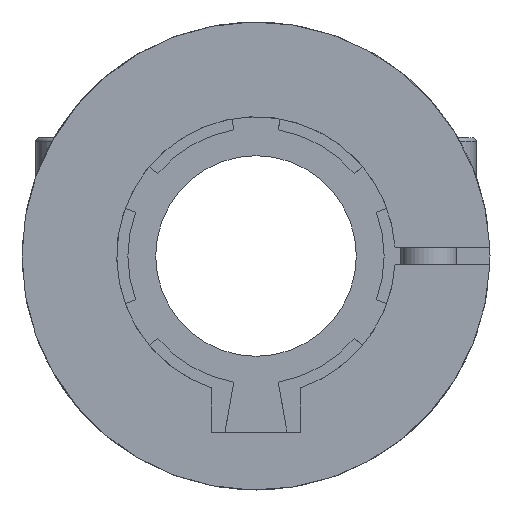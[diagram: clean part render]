
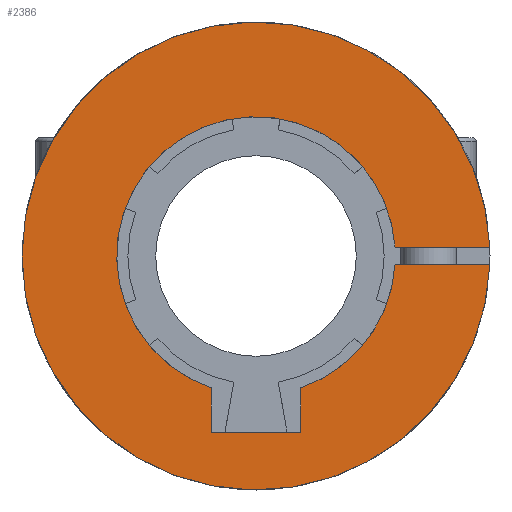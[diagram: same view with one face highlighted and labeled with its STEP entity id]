
A CAD part, left-side view. The second image highlights one B-rep face of the part: STEP entity #2386.
In plain terms, the highlighted planar face has unit normal (-1, 0, 0).
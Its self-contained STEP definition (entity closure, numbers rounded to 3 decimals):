
#56=PLANE('',#2619);
#164=FACE_OUTER_BOUND('',#296,.T.);
#296=EDGE_LOOP('',(#1694,#1695,#1696,#1697,#1698,#1699,#1700,#1701));
#452=LINE('',#3772,#681);
#456=LINE('',#3781,#685);
#459=LINE('',#3785,#688);
#462=LINE('',#3793,#691);
#464=LINE('',#3800,#693);
#681=VECTOR('',#2926,1.);
#685=VECTOR('',#2932,1.);
#688=VECTOR('',#2937,1.);
#691=VECTOR('',#2946,1000.);
#693=VECTOR('',#2954,1000.);
#887=CIRCLE('',#2589,21.);
#895=CIRCLE('',#2598,12.5);
#903=CIRCLE('',#2609,12.5);
#1013=VERTEX_POINT('',#3604);
#1014=VERTEX_POINT('',#3605);
#1033=VERTEX_POINT('',#3721);
#1034=VERTEX_POINT('',#3722);
#1050=VERTEX_POINT('',#3760);
#1051=VERTEX_POINT('',#3762);
#1054=VERTEX_POINT('',#3770);
#1058=VERTEX_POINT('',#3779);
#1261=EDGE_CURVE('',#1013,#1014,#887,.T.);
#1281=EDGE_CURVE('',#1033,#1034,#895,.T.);
#1301=EDGE_CURVE('',#1051,#1050,#903,.T.);
#1306=EDGE_CURVE('',#1050,#1054,#452,.T.);
#1310=EDGE_CURVE('',#1054,#1058,#456,.T.);
#1313=EDGE_CURVE('',#1058,#1033,#459,.T.);
#1317=EDGE_CURVE('',#1051,#1014,#462,.T.);
#1321=EDGE_CURVE('',#1013,#1034,#464,.T.);
#1694=ORIENTED_EDGE('',*,*,#1301,.T.);
#1695=ORIENTED_EDGE('',*,*,#1306,.T.);
#1696=ORIENTED_EDGE('',*,*,#1310,.T.);
#1697=ORIENTED_EDGE('',*,*,#1313,.T.);
#1698=ORIENTED_EDGE('',*,*,#1281,.T.);
#1699=ORIENTED_EDGE('',*,*,#1321,.F.);
#1700=ORIENTED_EDGE('',*,*,#1261,.T.);
#1701=ORIENTED_EDGE('',*,*,#1317,.F.);
#2386=ADVANCED_FACE('',(#164),#56,.F.);
#2589=AXIS2_PLACEMENT_3D('',#3606,#2857,#2858);
#2598=AXIS2_PLACEMENT_3D('',#3723,#2883,#2884);
#2609=AXIS2_PLACEMENT_3D('',#3763,#2917,#2918);
#2619=AXIS2_PLACEMENT_3D('',#3799,#2952,#2953);
#2857=DIRECTION('center_axis',(-1.,0.,0.));
#2858=DIRECTION('ref_axis',(0.,-1.,0.));
#2883=DIRECTION('center_axis',(1.,0.,0.));
#2884=DIRECTION('ref_axis',(0.,0.,-1.));
#2917=DIRECTION('center_axis',(1.,0.,0.));
#2918=DIRECTION('ref_axis',(0.,0.,-1.));
#2926=DIRECTION('',(0.,0.,-1.));
#2932=DIRECTION('',(0.,1.,0.));
#2937=DIRECTION('',(0.,0.,1.));
#2946=DIRECTION('',(0.,-1.,0.));
#2952=DIRECTION('center_axis',(1.,0.,0.));
#2953=DIRECTION('ref_axis',(0.,0.,-1.));
#2954=DIRECTION('',(0.,1.,0.));
#3604=CARTESIAN_POINT('',(0.,-20.985,0.8));
#3605=CARTESIAN_POINT('',(0.,-20.985,-0.8));
#3606=CARTESIAN_POINT('Origin',(0.,0.,0.));
#3721=CARTESIAN_POINT('',(0.,4.,-11.843));
#3722=CARTESIAN_POINT('',(0.,-12.474,0.8));
#3723=CARTESIAN_POINT('Origin',(0.,0.,0.));
#3760=CARTESIAN_POINT('',(0.,-4.,-11.843));
#3762=CARTESIAN_POINT('',(0.,-12.474,-0.8));
#3763=CARTESIAN_POINT('Origin',(0.,0.,0.));
#3770=CARTESIAN_POINT('',(0.,-4.,-15.8));
#3772=CARTESIAN_POINT('',(0.,-4.,-1.95));
#3779=CARTESIAN_POINT('',(0.,4.,-15.8));
#3781=CARTESIAN_POINT('',(0.,0.,-15.8));
#3785=CARTESIAN_POINT('',(0.,4.,-1.95));
#3793=CARTESIAN_POINT('',(0.,-2.3,-0.8));
#3799=CARTESIAN_POINT('Origin',(0.,0.,4.));
#3800=CARTESIAN_POINT('',(0.,-2.3,0.8));
